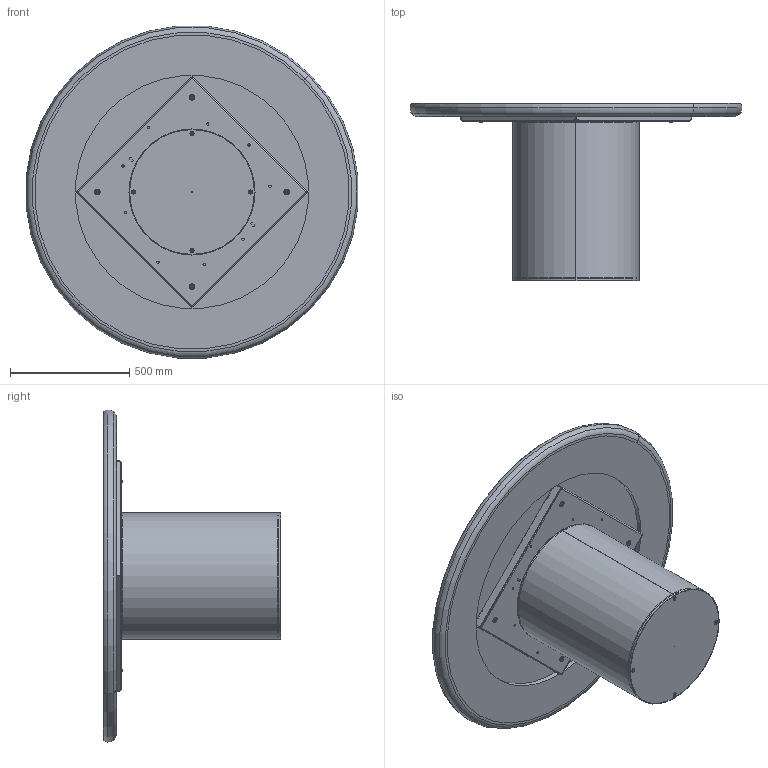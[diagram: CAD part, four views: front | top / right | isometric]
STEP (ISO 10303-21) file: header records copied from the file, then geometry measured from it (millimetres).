
FILE_DESCRIPTION (( 'STEP AP203' ), '1' );
FILE_NAME ('CI05K_Cilindro_d.140_King.STEP', '2024-07-31T13:12:28', ( '' ), ( '' ), 'SwSTEP 2.0', 'SolidWorks 2022', '' );
FILE_SCHEMA (( 'CONFIG_CONTROL_DESIGN' ));
Length unit declared in the file: millimetre
Products named in the file (14): W92-01-PIANO KING BORDO Ø140 SAGOMATO LACCATO; ASSIEME PIANO KING_PIANO+CERAMICA DIAM140; K92-00-PIANO SOLO CERAMICA D.136.7cm X PIANO C BORDO; C2B000000_01-00-struttura cilindro D.530mm; TTAV0801-02-TELAIO UNIVERSALE TONDO; C2B000000_02-01-ZAVORRA IN FERRO D.530mm; rondella M8_8X24; COLLO TELAIO UNIVERSALE TTAV0801 CON FERRAMENTA_MTG TOP LEGNO-MARMO-KING; M8xXXmm_hex_M8X20mm; M8xXXmm_M8x55mm; C2B000000-03-CILINDRO BASE D.530mm_Normale; CI05K_Cilindro_d.140_King; TTAV0801 TELAIO UNIVERSALE TONDO-PIASTRINA; TTAV0801-02-TELAIO UNIVERSALE TONDO-VASSOIO
Assembly tree (25 placements, depth 4):
  CI05K_Cilindro_d.140_King
    C2B000000-03-CILINDRO BASE D.530mm_Normale
      C2B000000_01-00-struttura cilindro D.530mm
      C2B000000_02-01-ZAVORRA IN FERRO D.530mm
      M8xXXmm_hex_M8X20mm  x4
    COLLO TELAIO UNIVERSALE TTAV0801 CON FERRAMENTA_MTG TOP LEGNO-MARMO-KING
      TTAV0801-02-TELAIO UNIVERSALE TONDO
        TTAV0801-02-TELAIO UNIVERSALE TONDO-VASSOIO
        TTAV0801 TELAIO UNIVERSALE TONDO-PIASTRINA  x4
      rondella M8_8X24  x4
      M8xXXmm_M8x55mm  x4
    ASSIEME PIANO KING_PIANO+CERAMICA DIAM140
      W92-01-PIANO KING BORDO Ø140 SAGOMATO LACCATO
      K92-00-PIANO SOLO CERAMICA D.136.7cm X PIANO C BORDO
Bounding box: 1394.67 x 746 x 1394.67 mm (x, y, z)
Volume: 76369066.1 mm3; surface area: 10432334.4 mm2
Topology: 24 solids, 24 shells, 878 faces, 2170 edges, 1326 vertices
Faces by surface type: plane 384, cylinder 330, cone 84, torus 66, sphere 14
Entity records: 17736 total; most frequent: DIRECTION 2934, CARTESIAN_POINT 2757, ORIENTED_EDGE 2626, EDGE_CURVE 1313, AXIS2_PLACEMENT_3D 1090, VERTEX_POINT 827, VECTOR 754, LINE 754
